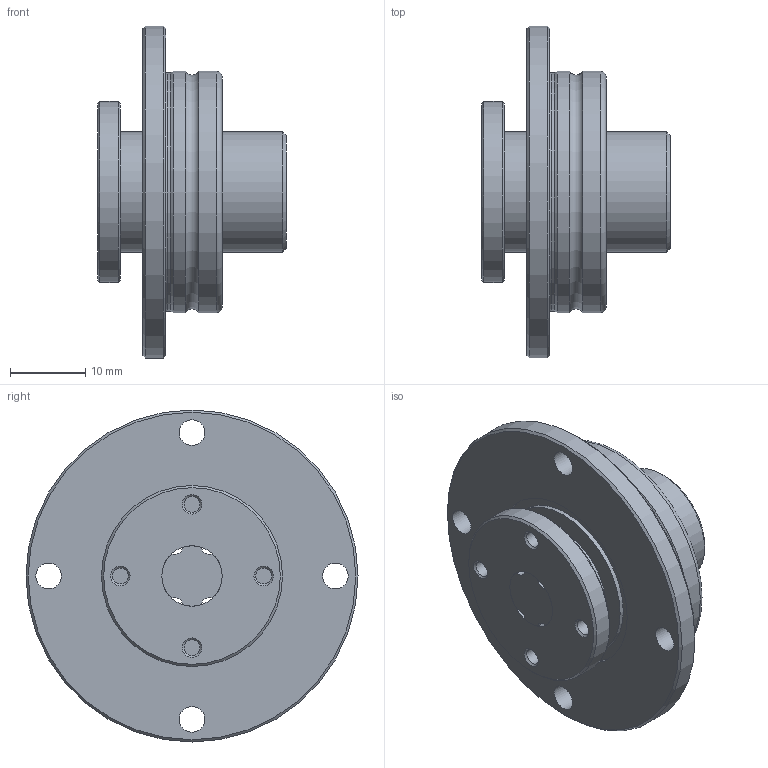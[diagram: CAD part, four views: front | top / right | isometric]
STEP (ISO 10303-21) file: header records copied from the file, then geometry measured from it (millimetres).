
FILE_DESCRIPTION(/* description */ ('STEP AP203'),/* implementation_level */ '2;1');
FILE_NAME(/* name */ 'LTR8A+25L(0_0)',/* time_stamp */ '2024-05-27T08:26:39+02:00',/* author */ ('License CC BY-ND 4.0'),/* organization */ ('CADENAS'),/* preprocessor_version */ 'ST-DEVELOPER v19.3',/* originating_system */ 'PARTsolutions',/* authorisation */ ' ');
FILE_SCHEMA (('CONFIG_CONTROL_DESIGN'));
Length unit declared in the file: millimetre
Products named in the file (3): LTR8A+25L(0,0); LTR 8A25 LTRA Shaft; LTR 8A LTRA ACyl
Assembly tree (3 placements, depth 2):
  LTR8A+25L(0,0)
    LTR 8A25 LTRA Shaft
    LTR 8A LTRA ACyl  x2
Bounding box: 25 x 44 x 44 mm (x, y, z)
Volume: 26230.5 mm3; surface area: 13360.4 mm2
Topology: 3 solids, 3 shells, 110 faces, 234 edges, 148 vertices
Faces by surface type: cylinder 50, cone 30, plane 24, torus 6
Full cylindrical faces by diameter (mm): 1 x2, 2.113 x8, 3.4 x8, 8 x2, 16 x4, 21.333 x2, 24 x6, 28.8 x2, 31.6 x2, 32 x4, 44 x2
Entity records: 1510 total; most frequent: DIRECTION 282, CARTESIAN_POINT 230, ORIENTED_EDGE 164, AXIS2_PLACEMENT_3D 137, EDGE_LOOP 126, FACE_BOUND 126, EDGE_CURVE 82, VERTEX_POINT 74
